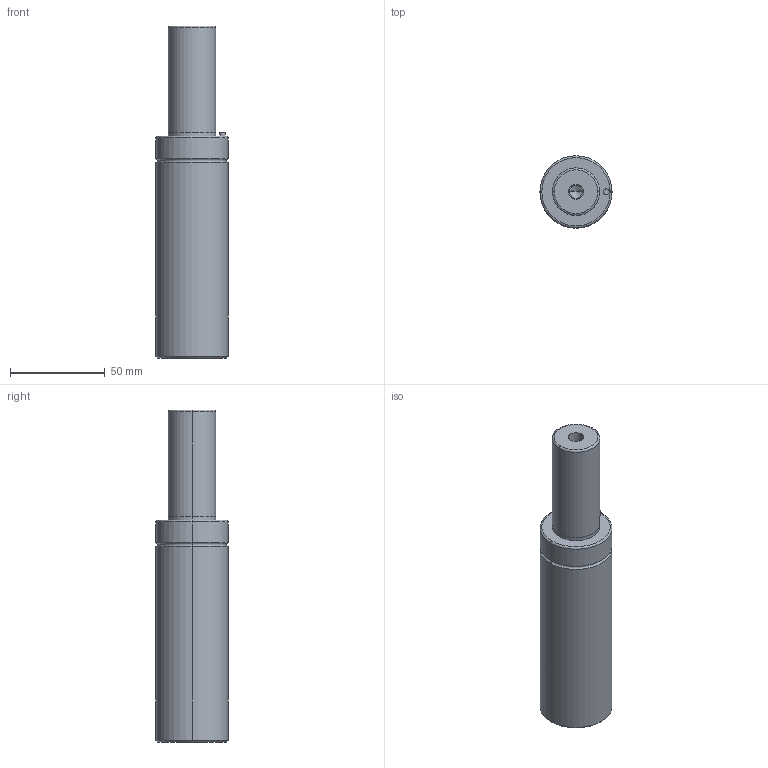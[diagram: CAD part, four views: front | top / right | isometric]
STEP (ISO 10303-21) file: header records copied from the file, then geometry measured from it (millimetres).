
FILE_DESCRIPTION(/* description */ (''),/* implementation_level */ '2;1');
FILE_NAME(/* name */ '3d_gsm38-56_03916_r00.stp',/* time_stamp */ '2011-01-10T14:15:15+09:00',/* author */ ('MISUMI'),/* organization */ (''),/* preprocessor_version */ 'ST-DEVELOPER v11',/* originating_system */ 'UGS - NX 5.0',/* authorisation */ '');
FILE_SCHEMA (('CONFIG_CONTROL_DESIGN'));
Length unit declared in the file: millimetre
Products named in the file (1): 3d_gsm38-56_03916_r00
Bounding box: 38 x 38 x 175 mm (x, y, z)
Volume: 159106.9 mm3; surface area: 21768.3 mm2
Topology: 1 solids, 1 shells, 50 faces, 106 edges, 60 vertices
Faces by surface type: cylinder 26, cone 10, plane 8, torus 6
Entity records: 1382 total; most frequent: DIRECTION 262, CARTESIAN_POINT 209, ORIENTED_EDGE 196, AXIS2_PLACEMENT_3D 113, EDGE_CURVE 98, CIRCLE 62, EDGE_LOOP 60, VERTEX_POINT 60
